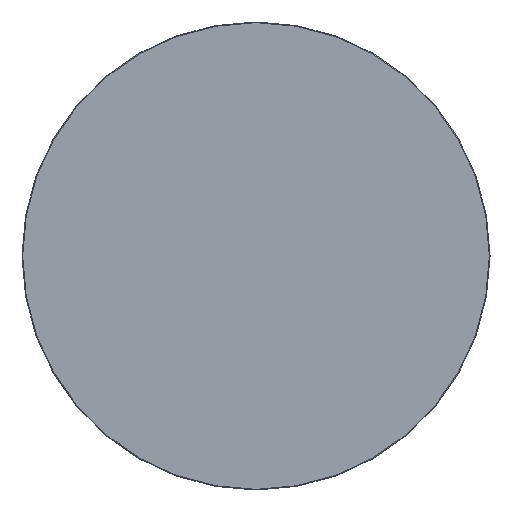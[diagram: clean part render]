
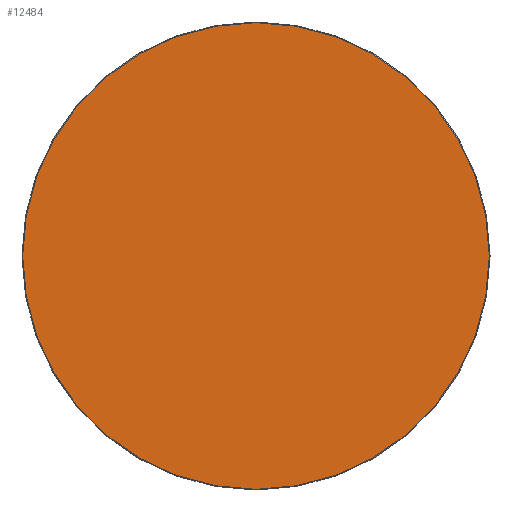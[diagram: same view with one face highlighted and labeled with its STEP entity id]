
A CAD part, top view. The second image highlights one B-rep face of the part: STEP entity #12484.
In plain terms, the highlighted planar face has unit normal (0, 0, 1).
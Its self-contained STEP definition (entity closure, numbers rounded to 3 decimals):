
#12409=CARTESIAN_POINT('',(0.,0.,20.));
#12410=DIRECTION('',(1.,0.,0.));
#12411=DIRECTION('',(0.,0.,1.));
#12412=AXIS2_PLACEMENT_3D('',#12409,#12411,#12410);
#12413=PLANE('',#12412);
#12414=CARTESIAN_POINT('',(-0.5,-498.5,20.));
#12415=VERTEX_POINT('',#12414);
#12416=CARTESIAN_POINT('',(0.5,-498.5,20.));
#12417=VERTEX_POINT('',#12416);
#12418=CARTESIAN_POINT('',(-0.5,-498.5,20.));
#12419=DIRECTION('',(1.,0.,0.));
#12420=VECTOR('',#12419,1.);
#12421=LINE('',#12418,#12420);
#12422=EDGE_CURVE('',#12415,#12417,#12421,.T.);
#12423=ORIENTED_EDGE('E105',*,*,#12422,.T.);
#12424=CARTESIAN_POINT('',(498.5,-0.5,20.));
#12425=VERTEX_POINT('',#12424);
#12426=CARTESIAN_POINT('',(0.5,-0.5,20.));
#12427=DIRECTION('',(0.,-1.,0.));
#12428=DIRECTION('',(0.,-0.,1.));
#12429=AXIS2_PLACEMENT_3D('',#12426,#12428,#12427);
#12430=CIRCLE('',#12429,498.);
#12431=EDGE_CURVE('',#12417,#12425,#12430,.T.);
#12432=ORIENTED_EDGE('E107',*,*,#12431,.T.);
#12433=CARTESIAN_POINT('',(498.5,0.5,20.));
#12434=VERTEX_POINT('',#12433);
#12435=CARTESIAN_POINT('',(498.5,-0.5,20.));
#12436=DIRECTION('',(0.,1.,0.));
#12437=VECTOR('',#12436,1.);
#12438=LINE('',#12435,#12437);
#12439=EDGE_CURVE('',#12425,#12434,#12438,.T.);
#12440=ORIENTED_EDGE('E109',*,*,#12439,.T.);
#12441=CARTESIAN_POINT('',(0.5,498.5,20.));
#12442=VERTEX_POINT('',#12441);
#12443=CARTESIAN_POINT('',(0.5,0.5,20.));
#12444=DIRECTION('',(1.,0.,0.));
#12445=DIRECTION('',(0.,0.,1.));
#12446=AXIS2_PLACEMENT_3D('',#12443,#12445,#12444);
#12447=CIRCLE('',#12446,498.);
#12448=EDGE_CURVE('',#12434,#12442,#12447,.T.);
#12449=ORIENTED_EDGE('E111',*,*,#12448,.T.);
#12450=CARTESIAN_POINT('',(-0.5,498.5,20.));
#12451=VERTEX_POINT('',#12450);
#12452=CARTESIAN_POINT('',(0.5,498.5,20.));
#12453=DIRECTION('',(-1.,0.,0.));
#12454=VECTOR('',#12453,1.);
#12455=LINE('',#12452,#12454);
#12456=EDGE_CURVE('',#12442,#12451,#12455,.T.);
#12457=ORIENTED_EDGE('E113',*,*,#12456,.T.);
#12458=CARTESIAN_POINT('',(-498.5,0.5,20.));
#12459=VERTEX_POINT('',#12458);
#12460=CARTESIAN_POINT('',(-0.5,0.5,20.));
#12461=DIRECTION('',(0.,1.,0.));
#12462=DIRECTION('',(0.,0.,1.));
#12463=AXIS2_PLACEMENT_3D('',#12460,#12462,#12461);
#12464=CIRCLE('',#12463,498.);
#12465=EDGE_CURVE('',#12451,#12459,#12464,.T.);
#12466=ORIENTED_EDGE('E115',*,*,#12465,.T.);
#12467=CARTESIAN_POINT('',(-498.5,-0.5,20.));
#12468=VERTEX_POINT('',#12467);
#12469=CARTESIAN_POINT('',(-498.5,0.5,20.));
#12470=DIRECTION('',(0.,-1.,0.));
#12471=VECTOR('',#12470,1.);
#12472=LINE('',#12469,#12471);
#12473=EDGE_CURVE('',#12459,#12468,#12472,.T.);
#12474=ORIENTED_EDGE('E117',*,*,#12473,.T.);
#12475=CARTESIAN_POINT('',(-0.5,-0.5,20.));
#12476=DIRECTION('',(-1.,0.,0.));
#12477=DIRECTION('',(0.,0.,1.));
#12478=AXIS2_PLACEMENT_3D('',#12475,#12477,#12476);
#12479=CIRCLE('',#12478,498.);
#12480=EDGE_CURVE('',#12468,#12415,#12479,.T.);
#12481=ORIENTED_EDGE('E119',*,*,#12480,.T.);
#12482=EDGE_LOOP('',(#12423,#12432,#12440,#12449,#12457,#12466,#12474,#12481));
#12483=FACE_OUTER_BOUND('',#12482,.T.);
#12484=ADVANCED_FACE('F2',(#12483),#12413,.T.);
